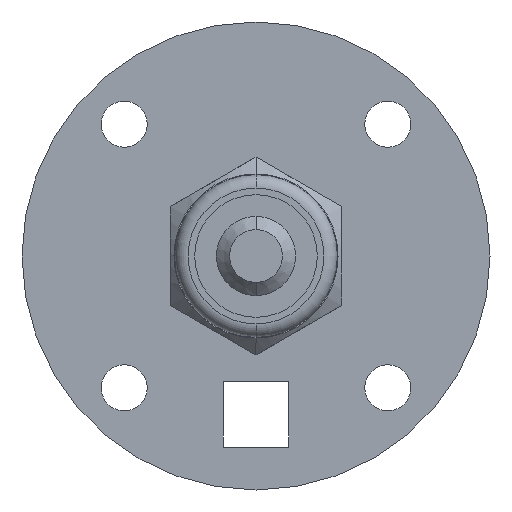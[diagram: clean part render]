
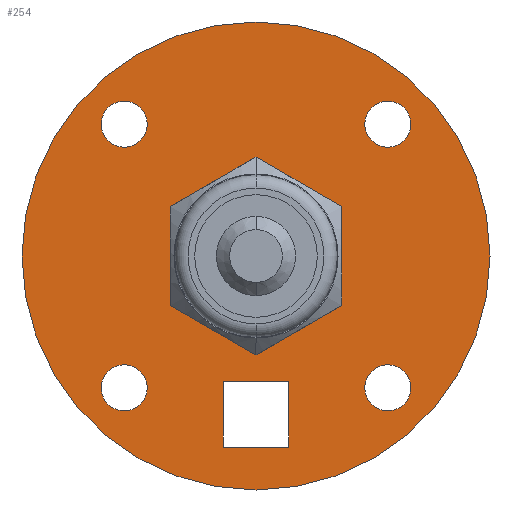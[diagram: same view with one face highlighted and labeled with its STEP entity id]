
A CAD part, front view. The second image highlights one B-rep face of the part: STEP entity #254.
In plain terms, the highlighted planar face has unit normal (0, -1, 0).
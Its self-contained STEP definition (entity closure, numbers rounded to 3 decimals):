
#11 = CARTESIAN_POINT ( 'NONE',  ( -10., -12.5, 10. ) ) ;
#37 = DIRECTION ( 'NONE',  ( 0., 0., -1. ) ) ;
#43 = DIRECTION ( 'NONE',  ( 0., -1., 0. ) ) ;
#70 = CARTESIAN_POINT ( 'NONE',  ( 10., -12.5, -10. ) ) ;
#75 = VERTEX_POINT ( 'NONE', #1781 ) ;
#96 = DIRECTION ( 'NONE',  ( 0., -1., 0. ) ) ;
#108 = CARTESIAN_POINT ( 'NONE',  ( 2.5, -12.5, 0. ) ) ;
#112 = CARTESIAN_POINT ( 'NONE',  ( -10., -12.5, 8.25 ) ) ;
#148 = EDGE_CURVE ( 'NONE', #1632, #1385, #1386, .T. ) ;
#149 = EDGE_LOOP ( 'NONE', ( #558, #1547 ) ) ;
#159 = AXIS2_PLACEMENT_3D ( 'NONE', #477, #1213, #2336 ) ;
#166 = AXIS2_PLACEMENT_3D ( 'NONE', #11, #911, #376 ) ;
#217 = EDGE_CURVE ( 'NONE', #1385, #1632, #2008, .T. ) ;
#237 = EDGE_CURVE ( 'NONE', #2119, #741, #952, .T. ) ;
#251 = CARTESIAN_POINT ( 'NONE',  ( 0., -12.5, 0. ) ) ;
#254 = ADVANCED_FACE ( 'NONE', ( #1913, #1192, #1731, #622, #276, #2123, #779 ), #1001, .T. ) ;
#276 = FACE_BOUND ( 'NONE', #1099, .T. ) ;
#322 = AXIS2_PLACEMENT_3D ( 'NONE', #1719, #1216, #492 ) ;
#351 = AXIS2_PLACEMENT_3D ( 'NONE', #631, #402, #37 ) ;
#352 = CARTESIAN_POINT ( 'NONE',  ( 10., -12.5, 8.25 ) ) ;
#376 = DIRECTION ( 'NONE',  ( 0., 0., -1. ) ) ;
#402 = DIRECTION ( 'NONE',  ( 0., -1., 0. ) ) ;
#419 = DIRECTION ( 'NONE',  ( 0., -1., 0. ) ) ;
#428 = AXIS2_PLACEMENT_3D ( 'NONE', #1088, #1846, #1481 ) ;
#430 = ORIENTED_EDGE ( 'NONE', *, *, #148, .T. ) ;
#445 = VERTEX_POINT ( 'NONE', #1161 ) ;
#475 = EDGE_CURVE ( 'NONE', #688, #1199, #2129, .T. ) ;
#477 = CARTESIAN_POINT ( 'NONE',  ( 0., -12.5, 0. ) ) ;
#482 = DIRECTION ( 'NONE',  ( 0., 0., -1. ) ) ;
#492 = DIRECTION ( 'NONE',  ( 0., 0., -1. ) ) ;
#529 = ORIENTED_EDGE ( 'NONE', *, *, #1608, .T. ) ;
#537 = CARTESIAN_POINT ( 'NONE',  ( 0., -12.5, -6.25 ) ) ;
#558 = ORIENTED_EDGE ( 'NONE', *, *, #1487, .F. ) ;
#562 = DIRECTION ( 'NONE',  ( 0., 0., -1. ) ) ;
#587 = CIRCLE ( 'NONE', #322, 1.75 ) ;
#598 = DIRECTION ( 'NONE',  ( 0., 0., -1. ) ) ;
#622 = FACE_BOUND ( 'NONE', #149, .T. ) ;
#625 = CIRCLE ( 'NONE', #1287, 1.75 ) ;
#628 = DIRECTION ( 'NONE',  ( 0., 0., 1. ) ) ;
#631 = CARTESIAN_POINT ( 'NONE',  ( 10., -12.5, 10. ) ) ;
#645 = DIRECTION ( 'NONE',  ( 0., 0., -1. ) ) ;
#661 = AXIS2_PLACEMENT_3D ( 'NONE', #1700, #1517, #2263 ) ;
#671 = ORIENTED_EDGE ( 'NONE', *, *, #1955, .T. ) ;
#688 = VERTEX_POINT ( 'NONE', #1274 ) ;
#693 = VECTOR ( 'NONE', #1640, 1000. ) ;
#703 = VERTEX_POINT ( 'NONE', #2396 ) ;
#725 = CARTESIAN_POINT ( 'NONE',  ( -10., -12.5, -10. ) ) ;
#734 = CARTESIAN_POINT ( 'NONE',  ( 10., -12.5, -11.75 ) ) ;
#741 = VERTEX_POINT ( 'NONE', #734 ) ;
#749 = CARTESIAN_POINT ( 'NONE',  ( -10., -12.5, -10. ) ) ;
#779 = FACE_BOUND ( 'NONE', #980, .T. ) ;
#787 = LINE ( 'NONE', #1365, #807 ) ;
#793 = ORIENTED_EDGE ( 'NONE', *, *, #1448, .F. ) ;
#804 = ORIENTED_EDGE ( 'NONE', *, *, #475, .F. ) ;
#807 = VECTOR ( 'NONE', #1535, 1000. ) ;
#846 = AXIS2_PLACEMENT_3D ( 'NONE', #725, #96, #2397 ) ;
#884 = CIRCLE ( 'NONE', #166, 1.75 ) ;
#911 = DIRECTION ( 'NONE',  ( 0., -1., 0. ) ) ;
#952 = CIRCLE ( 'NONE', #1034, 1.75 ) ;
#966 = VECTOR ( 'NONE', #628, 1000. ) ;
#973 = CARTESIAN_POINT ( 'NONE',  ( 0., -12.5, 0. ) ) ;
#980 = EDGE_LOOP ( 'NONE', ( #671, #529, #1809, #1948 ) ) ;
#985 = VERTEX_POINT ( 'NONE', #1568 ) ;
#1001 = PLANE ( 'NONE',  #2325 ) ;
#1017 = CARTESIAN_POINT ( 'NONE',  ( 10., -12.5, -8.25 ) ) ;
#1018 = VERTEX_POINT ( 'NONE', #112 ) ;
#1019 = LINE ( 'NONE', #108, #2049 ) ;
#1034 = AXIS2_PLACEMENT_3D ( 'NONE', #70, #1514, #1380 ) ;
#1056 = ORIENTED_EDGE ( 'NONE', *, *, #2101, .F. ) ;
#1068 = CARTESIAN_POINT ( 'NONE',  ( 0., -12.5, 6.25 ) ) ;
#1070 = CARTESIAN_POINT ( 'NONE',  ( 2.5, -12.5, -14.5 ) ) ;
#1087 = CIRCLE ( 'NONE', #428, 1.75 ) ;
#1088 = CARTESIAN_POINT ( 'NONE',  ( 10., -12.5, 10. ) ) ;
#1099 = EDGE_LOOP ( 'NONE', ( #2225, #793 ) ) ;
#1143 = VERTEX_POINT ( 'NONE', #1070 ) ;
#1159 = EDGE_LOOP ( 'NONE', ( #804, #1457 ) ) ;
#1161 = CARTESIAN_POINT ( 'NONE',  ( 2.5, -12.5, -9.5 ) ) ;
#1192 = FACE_BOUND ( 'NONE', #1159, .T. ) ;
#1199 = VERTEX_POINT ( 'NONE', #352 ) ;
#1208 = ORIENTED_EDGE ( 'NONE', *, *, #237, .F. ) ;
#1213 = DIRECTION ( 'NONE',  ( 0., -1., 0. ) ) ;
#1216 = DIRECTION ( 'NONE',  ( 0., -1., 0. ) ) ;
#1259 = EDGE_CURVE ( 'NONE', #1922, #1018, #884, .T. ) ;
#1270 = ORIENTED_EDGE ( 'NONE', *, *, #1779, .F. ) ;
#1274 = CARTESIAN_POINT ( 'NONE',  ( 10., -12.5, 11.75 ) ) ;
#1287 = AXIS2_PLACEMENT_3D ( 'NONE', #749, #1332, #2240 ) ;
#1300 = EDGE_CURVE ( 'NONE', #1199, #688, #1087, .T. ) ;
#1321 = CARTESIAN_POINT ( 'NONE',  ( 10., -12.5, -10. ) ) ;
#1332 = DIRECTION ( 'NONE',  ( 0., -1., 0. ) ) ;
#1335 = EDGE_LOOP ( 'NONE', ( #2184, #430 ) ) ;
#1348 = LINE ( 'NONE', #2089, #966 ) ;
#1365 = CARTESIAN_POINT ( 'NONE',  ( 0., -12.5, -14.5 ) ) ;
#1371 = CARTESIAN_POINT ( 'NONE',  ( 0., -12.5, 17.75 ) ) ;
#1380 = DIRECTION ( 'NONE',  ( 0., 0., -1. ) ) ;
#1381 = EDGE_LOOP ( 'NONE', ( #2354, #1056 ) ) ;
#1385 = VERTEX_POINT ( 'NONE', #1371 ) ;
#1386 = CIRCLE ( 'NONE', #159, 17.75 ) ;
#1445 = EDGE_CURVE ( 'NONE', #2001, #1621, #1978, .T. ) ;
#1448 = EDGE_CURVE ( 'NONE', #1621, #2001, #2245, .T. ) ;
#1457 = ORIENTED_EDGE ( 'NONE', *, *, #1300, .F. ) ;
#1476 = DIRECTION ( 'NONE',  ( 0., -1., 0. ) ) ;
#1481 = DIRECTION ( 'NONE',  ( 0., 0., -1. ) ) ;
#1487 = EDGE_CURVE ( 'NONE', #75, #703, #1891, .T. ) ;
#1514 = DIRECTION ( 'NONE',  ( 0., -1., 0. ) ) ;
#1517 = DIRECTION ( 'NONE',  ( 0., -1., 0. ) ) ;
#1535 = DIRECTION ( 'NONE',  ( -1., 0., 0. ) ) ;
#1547 = ORIENTED_EDGE ( 'NONE', *, *, #1654, .F. ) ;
#1568 = CARTESIAN_POINT ( 'NONE',  ( -2.5, -12.5, -9.5 ) ) ;
#1608 = EDGE_CURVE ( 'NONE', #985, #445, #2191, .T. ) ;
#1621 = VERTEX_POINT ( 'NONE', #537 ) ;
#1625 = EDGE_CURVE ( 'NONE', #445, #1143, #1019, .T. ) ;
#1632 = VERTEX_POINT ( 'NONE', #1960 ) ;
#1640 = DIRECTION ( 'NONE',  ( 1., 0., 0. ) ) ;
#1654 = EDGE_CURVE ( 'NONE', #703, #75, #625, .T. ) ;
#1700 = CARTESIAN_POINT ( 'NONE',  ( 0., -12.5, 0. ) ) ;
#1719 = CARTESIAN_POINT ( 'NONE',  ( -10., -12.5, 10. ) ) ;
#1731 = FACE_BOUND ( 'NONE', #1381, .T. ) ;
#1744 = CIRCLE ( 'NONE', #1821, 1.75 ) ;
#1747 = CARTESIAN_POINT ( 'NONE',  ( 0., -12.5, 0. ) ) ;
#1752 = CARTESIAN_POINT ( 'NONE',  ( -2.5, -12.5, -14.5 ) ) ;
#1779 = EDGE_CURVE ( 'NONE', #741, #2119, #1744, .T. ) ;
#1781 = CARTESIAN_POINT ( 'NONE',  ( -10., -12.5, -8.25 ) ) ;
#1782 = AXIS2_PLACEMENT_3D ( 'NONE', #973, #419, #2087 ) ;
#1809 = ORIENTED_EDGE ( 'NONE', *, *, #1625, .T. ) ;
#1815 = CARTESIAN_POINT ( 'NONE',  ( 0., -12.5, -9.5 ) ) ;
#1821 = AXIS2_PLACEMENT_3D ( 'NONE', #1321, #1476, #562 ) ;
#1846 = DIRECTION ( 'NONE',  ( 0., -1., 0. ) ) ;
#1891 = CIRCLE ( 'NONE', #846, 1.75 ) ;
#1913 = FACE_BOUND ( 'NONE', #2091, .T. ) ;
#1914 = VERTEX_POINT ( 'NONE', #1752 ) ;
#1922 = VERTEX_POINT ( 'NONE', #2074 ) ;
#1948 = ORIENTED_EDGE ( 'NONE', *, *, #2315, .T. ) ;
#1955 = EDGE_CURVE ( 'NONE', #1914, #985, #1348, .T. ) ;
#1960 = CARTESIAN_POINT ( 'NONE',  ( 0., -12.5, -17.75 ) ) ;
#1978 = CIRCLE ( 'NONE', #1782, 6.25 ) ;
#2001 = VERTEX_POINT ( 'NONE', #1068 ) ;
#2008 = CIRCLE ( 'NONE', #2083, 17.75 ) ;
#2049 = VECTOR ( 'NONE', #482, 1000. ) ;
#2074 = CARTESIAN_POINT ( 'NONE',  ( -10., -12.5, 11.75 ) ) ;
#2083 = AXIS2_PLACEMENT_3D ( 'NONE', #251, #43, #645 ) ;
#2087 = DIRECTION ( 'NONE',  ( 0., 0., -1. ) ) ;
#2089 = CARTESIAN_POINT ( 'NONE',  ( -2.5, -12.5, 0. ) ) ;
#2091 = EDGE_LOOP ( 'NONE', ( #1208, #1270 ) ) ;
#2101 = EDGE_CURVE ( 'NONE', #1018, #1922, #587, .T. ) ;
#2119 = VERTEX_POINT ( 'NONE', #1017 ) ;
#2123 = FACE_OUTER_BOUND ( 'NONE', #1335, .T. ) ;
#2129 = CIRCLE ( 'NONE', #351, 1.75 ) ;
#2184 = ORIENTED_EDGE ( 'NONE', *, *, #217, .T. ) ;
#2191 = LINE ( 'NONE', #1815, #693 ) ;
#2225 = ORIENTED_EDGE ( 'NONE', *, *, #1445, .F. ) ;
#2240 = DIRECTION ( 'NONE',  ( 0., 0., -1. ) ) ;
#2245 = CIRCLE ( 'NONE', #661, 6.25 ) ;
#2259 = DIRECTION ( 'NONE',  ( 0., -1., 0. ) ) ;
#2263 = DIRECTION ( 'NONE',  ( 0., 0., -1. ) ) ;
#2315 = EDGE_CURVE ( 'NONE', #1143, #1914, #787, .T. ) ;
#2325 = AXIS2_PLACEMENT_3D ( 'NONE', #1747, #2259, #598 ) ;
#2336 = DIRECTION ( 'NONE',  ( 0., 0., -1. ) ) ;
#2354 = ORIENTED_EDGE ( 'NONE', *, *, #1259, .F. ) ;
#2396 = CARTESIAN_POINT ( 'NONE',  ( -10., -12.5, -11.75 ) ) ;
#2397 = DIRECTION ( 'NONE',  ( 0., 0., -1. ) ) ;
